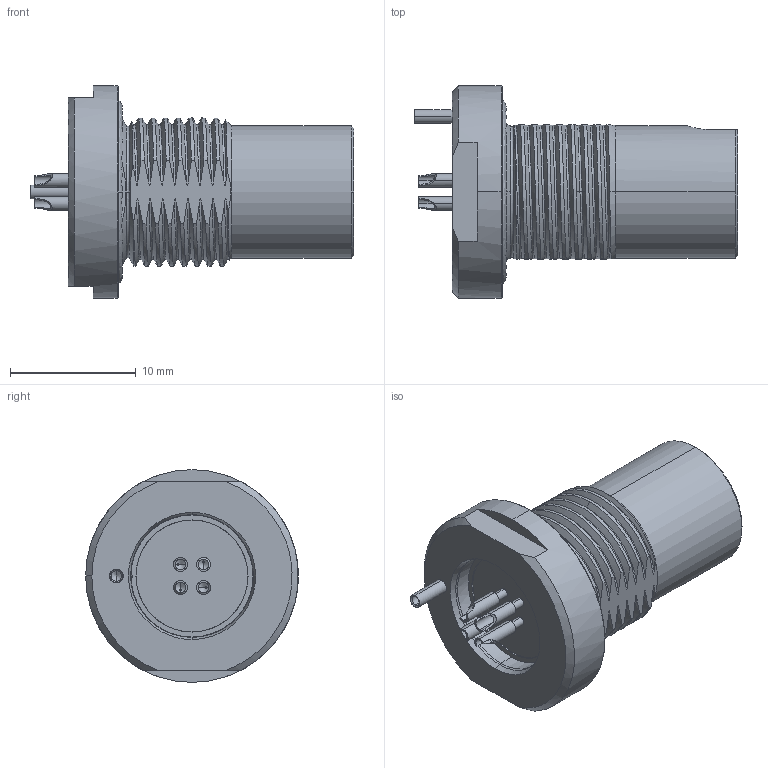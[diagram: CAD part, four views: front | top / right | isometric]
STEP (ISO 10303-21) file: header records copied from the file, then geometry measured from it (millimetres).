
FILE_DESCRIPTION (( 'STEP AP214' ), '1' );
FILE_NAME ('SW3DPS-Fischer_UR01W08_F004S_BK1-DEFAULT.STEP', '2015-10-20T10:36:47', ( 'Windows User' ), ( '' ), 'SwSTEP 2.0', 'SolidWorks 2015', '' );
FILE_SCHEMA (( 'AUTOMOTIVE_DESIGN' ));
Length unit declared in the file: millimetre
Products named in the file (1): SW3DPS-Fischer_UR01W08_F004S_BK1-DEFAULT
Bounding box: 25.7 x 16.9 x 16.9 mm (x, y, z)
Volume: 1741.8 mm3; surface area: 3429.3 mm2
Topology: 2 solids, 2 shells, 552 faces, 1681 edges, 1141 vertices
Faces by surface type: cylinder 197, plane 141, bspline 133, cone 81
Entity records: 31347 total; most frequent: CARTESIAN_POINT 15253, ORIENTED_EDGE 3326, DIRECTION 1956, EDGE_CURVE 1663, VERTEX_POINT 1141, B_SPLINE_CURVE_WITH_KNOTS 846, AXIS2_PLACEMENT_3D 741, EDGE_LOOP 592
